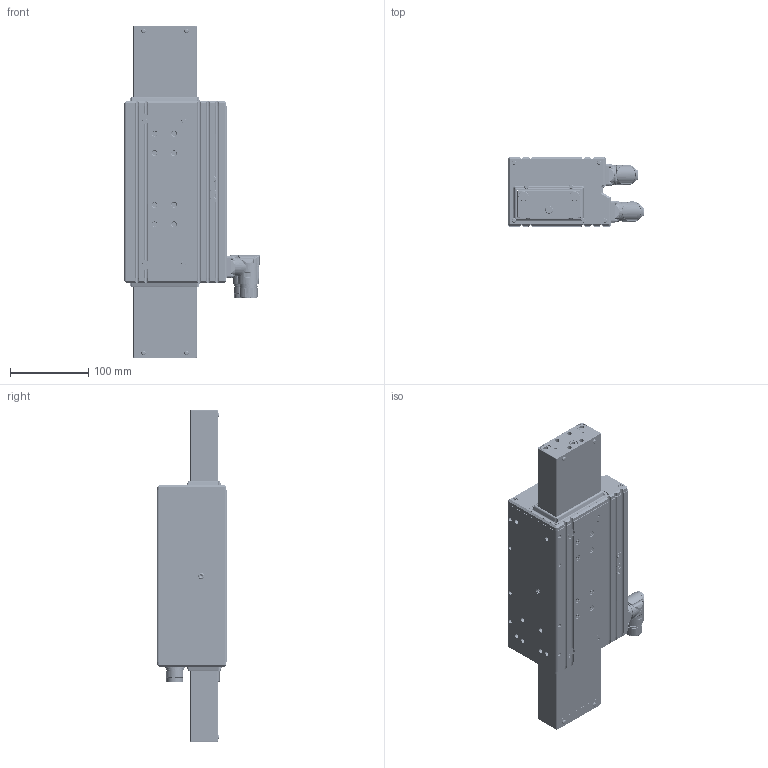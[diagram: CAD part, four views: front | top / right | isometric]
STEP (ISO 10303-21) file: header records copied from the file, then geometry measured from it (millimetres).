
FILE_DESCRIPTION((''),'2;1');
FILE_NAME('LDAT-30-DUMMY_ASM','2012-05-23T',('ALS'),('Rockwell Automation'),'PRO/ENGINEER BY PARAMETRIC TECHNOLOGY CORPORATION, 2007390','PRO/ENGINEER BY PARAMETRIC TECHNOLOGY CORPORATION, 2007390','');
FILE_SCHEMA(('CONFIG_CONTROL_DESIGN'));
Length unit declared in the file: millimetre
Products named in the file (33): B627631-30LC-A_AF2; D627756-30-100_ASM; D627769-30; D627768-30; D627739-30; B627834; A805843-1; A805843-2; A805843-4; A805843-3_ASM; A805843-5; A805843-6; A805843_ASM; A805844-1; A805844-2; A805844-3; A805844_ASM; B805901-E1-NT_ASM; LDAT-30-SLIDER-DUMMY-400; B627686-30; B627690-30; 627819; 627815; 627822; DIN7991-10_9-3X14-ZP; DIN7991-10_9-5X25-ZP; DIN912-3X8; DIN912-2_5X12; 627849; DIN912-8X35; DIN912-6X16; ISO7380-3X8; LDAT-30-DUMMY_ASM
Assembly tree (86 placements, depth 4):
  LDAT-30-DUMMY_ASM
    D627756-30-100_ASM
      B627631-30LC-A_AF2
    D627769-30
    D627768-30
    D627739-30  x2
    B627834
    A805843_ASM
      A805843-1
      A805843-2
      A805843-3_ASM
        A805843-4
      A805843-5  x4
      A805843-6  x2
    B805901-E1-NT_ASM
      A805844_ASM
        A805844-1
        A805844-2
        A805844-3
    LDAT-30-SLIDER-DUMMY-400
    B627686-30  x2
    B627690-30  x2
    627819  x4
    627815  x3
    627822
    DIN7991-10_9-3X14-ZP  x8
    DIN7991-10_9-5X25-ZP  x4
    DIN912-3X8  x14
    DIN912-2_5X12  x8
    627849  x6
    DIN912-8X35  x4
    DIN912-6X16  x2
    ISO7380-3X8  x4
Bounding box: 174.05 x 90 x 425.4 mm (x, y, z)
Volume: 2336269 mm3; surface area: 487055.5 mm2
Topology: 81 solids, 96 shells, 6208 faces, 17171 edges, 11211 vertices
Faces by surface type: cylinder 2474, plane 1656, bspline 842, cone 568, torus 554, sphere 109, extrusion 3, revolution 2
Entity records: 237401 total; most frequent: CARTESIAN_POINT 120407, ORIENTED_EDGE 26668, DIRECTION 21711, EDGE_CURVE 13359, VERTEX_POINT 8864, AXIS2_PLACEMENT_3D 8859, EDGE_LOOP 5033, CIRCLE 4859
